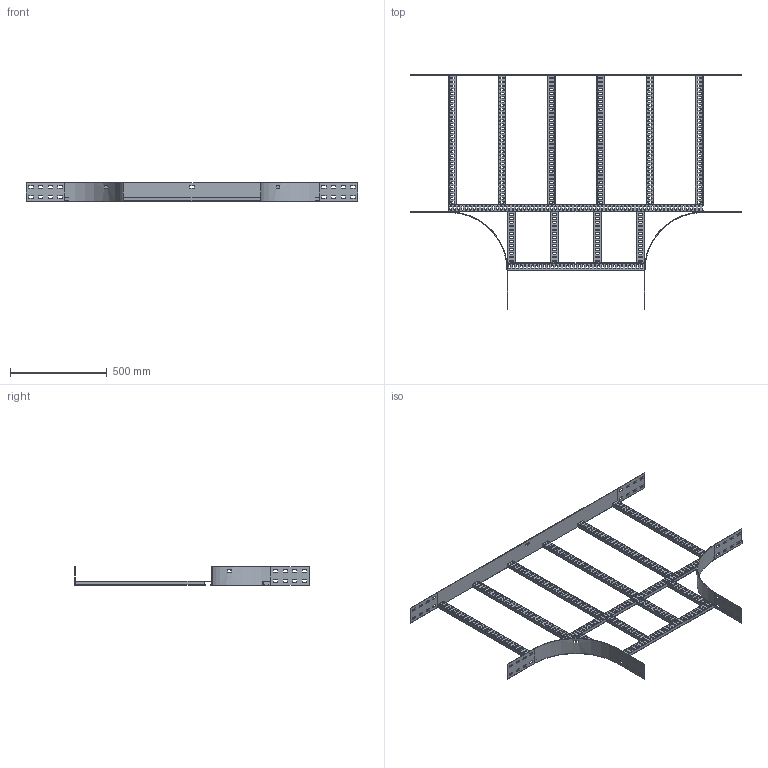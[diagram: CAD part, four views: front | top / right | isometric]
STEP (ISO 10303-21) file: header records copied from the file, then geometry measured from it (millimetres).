
FILE_DESCRIPTION(/* description */ ('','CAx-IF Rec.Pracs.---Representation and Presentation of Product Manufacturing Information (PMI)---4.0---2014-10-13'),/* implementation_level */ '2;1');
FILE_NAME(/* name */ 'Eurostrut_EET100-700-300_T-Piece for Cable Ladder ECL.step',/* time_stamp */ '2026-09-03T15:52:01+02:00',/* author */ (''),/* organization */ (''),/* preprocessor_version */ 'ST-DEVELOPER v20.1',/* originating_system */ 'Autodesk Revit 2027 27.2.0.39',/* authorisation */ '');
FILE_SCHEMA (('AP242_MANAGED_MODEL_BASED_3D_ENGINEERING_MIM_LF { 1 0 10303 442 2 1 4 }'));
Products named in the file (9): TopLevelAssembly; Sweep; Sweep_1; Eurostrut_Cable Ladder_Rung_With slots; Eurostrut_Cable Ladder_Rung_With slots_1; Eurostrut_Cable Ladder_Rung Array Straight_Slotted; Eurostrut_Cable Ladder_Rung Array Straight_Slotted_1; Sweep_2; Eurostrut_Cable Ladder_Accessory End_54-94-142
Assembly tree (13 placements, depth 2):
  TopLevelAssembly
    Sweep
    Sweep_1
    Eurostrut_Cable Ladder_Rung_With slots
    Eurostrut_Cable Ladder_Rung_With slots_1
    Eurostrut_Cable Ladder_Rung Array Straight_Slotted
    Eurostrut_Cable Ladder_Rung Array Straight_Slotted_1
    Sweep_2
    Eurostrut_Cable Ladder_Accessory End_54-94-142  x6
Bounding box: 1711 x 1211 x 94.04 mm (x, y, z)
Volume: 1803267.3 mm3; surface area: 1868014.9 mm2
Topology: 21 solids, 21 shells, 1878 faces, 5508 edges, 3672 vertices
Faces by surface type: plane 1124, bspline 702, cylinder 52
Entity records: 77742 total; most frequent: CARTESIAN_POINT 31688, ORIENTED_EDGE 9936, DIRECTION 8500, EDGE_CURVE 4968, LINE 3452, VECTOR 3452, VERTEX_POINT 3312, AXIS2_PLACEMENT_3D 2524
